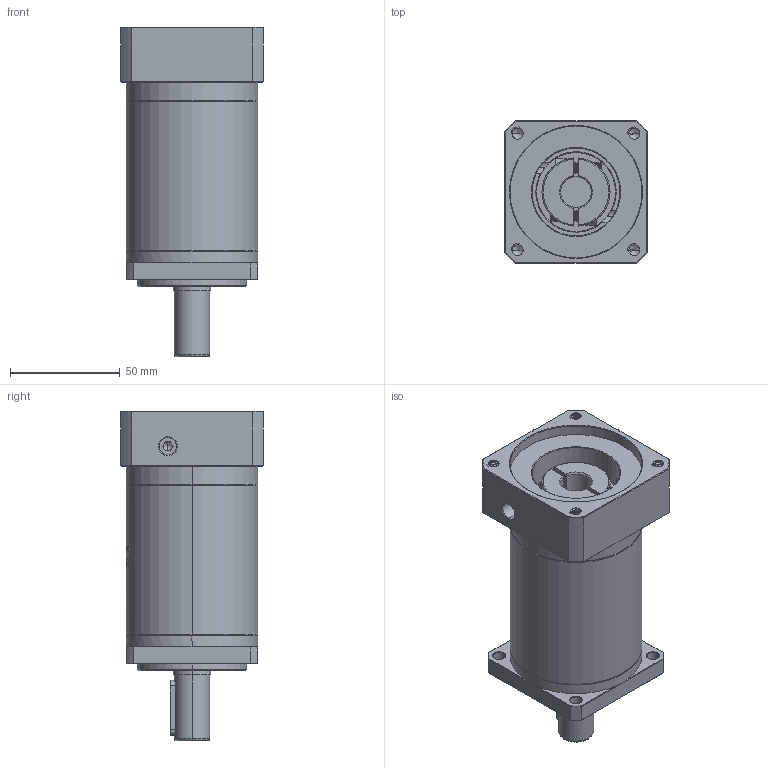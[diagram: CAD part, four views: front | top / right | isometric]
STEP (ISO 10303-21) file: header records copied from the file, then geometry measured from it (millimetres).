
FILE_DESCRIPTION (( 'STEP AP214' ), '1' );
FILE_NAME ('ZF60-D16-L3-14-60-75-M6.STEP', '2022-04-17T11:49:43', ( '' ), ( 'Microsoft' ), 'SwSTEP 2.0', 'SolidWorks 2016', '' );
FILE_SCHEMA (( 'AUTOMOTIVE_DESIGN' ));
Length unit declared in the file: millimetre
Products named in the file (1): ZF60-D16-L3-14-60-75-M6
Bounding box: 65 x 65 x 150 mm (x, y, z)
Volume: 333503.5 mm3; surface area: 53795.7 mm2
Topology: 6 solids, 6 shells, 1665 faces, 4490 edges, 2902 vertices
Faces by surface type: plane 749, cylinder 363, bspline 299, cone 236, torus 18
Entity records: 94629 total; most frequent: CARTESIAN_POINT 38337, ORIENTED_EDGE 8952, DIRECTION 6580, EDGE_CURVE 4476, VERTEX_POINT 2902, LINE 2278, VECTOR 2278, AXIS2_PLACEMENT_3D 2151
